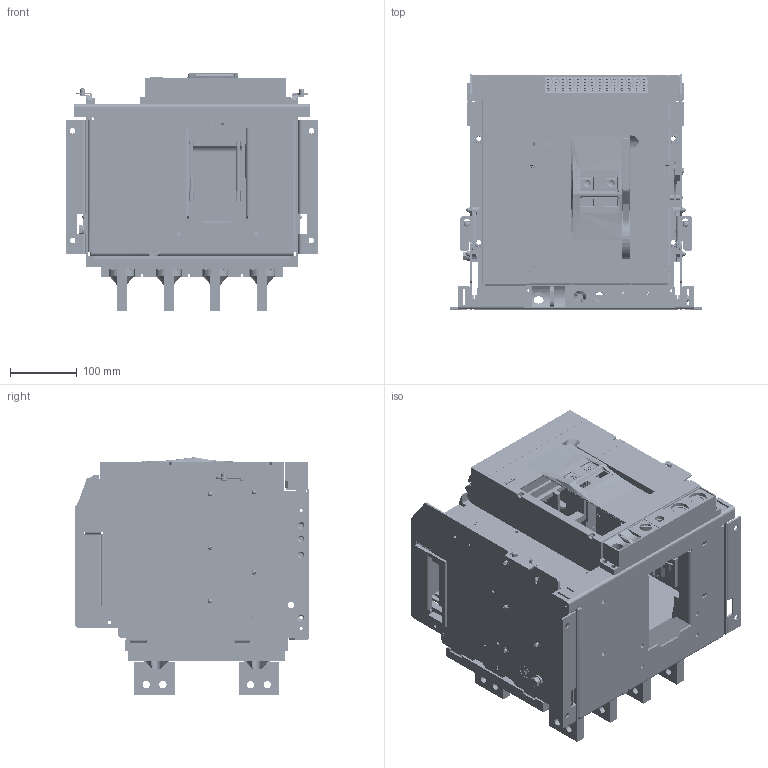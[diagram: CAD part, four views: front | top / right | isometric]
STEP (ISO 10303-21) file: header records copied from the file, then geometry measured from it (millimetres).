
FILE_DESCRIPTION((''),'2;1');
FILE_NAME('NA8G-1600-1250-DO-4P-V_ASM','2019-06-03T08:48:49',('lcc'),(''),'CREO PARAMETRIC BY PTC INC, 2018020','CREO PARAMETRIC BY PTC INC, 2018020','');
FILE_SCHEMA(('CONFIG_CONTROL_DESIGN','SHAPE_APPEARANCE_LAYERS_GROUPS'));
Products named in the file (51): 8-024-498; 8-300-164; 8-141-125; 8ZTD-860-349-2; 8-441-081; 5ZTD-024-170_ASM; 8-050-244; 8-960-058; 8-960-056; 8-960-057; 8-960-060; 8-960-059; 8-127-020; 8-125-057; 8-123-120; 8-261-001; 8-125-001; 8-210-176; 5-124-010_ASM; 8-233-301; GBT97_1-4; GBT93-4; GBT818-M4X10; GBT845-ST4_2X9_5C; GBT6170-M8; 5-050-095_ASM; 8-050-243; 8-261-002; 8-125-002; 5-124-011_ASM; GBT97_1-8; GBT93-8; GBT5783-M8X16; 5-050-096_ASM; 8-300-163; 8-015-020; 8ZTD-043-780; 8ZTD-043-781; 8-300-162-2; 8-005-238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
Assembly tree (104 placements, depth 4):
  NA8G-1600-1250-DO-4P-V_ASM
    5ZTD-024-170_ASM
      8-024-498
      8-300-164
      8-141-125
      8ZTD-860-349-2
      8-441-081
    5-050-095_ASM
      8-050-244
      8-960-058
      8-960-056
      8-960-057
      8-960-060
      8-960-059
      8-127-020
      8-125-057
      8-123-120
      5-124-010_ASM
        8-261-001
        8-125-001
        8-210-176
      8-233-301
      GBT97_1-4  x5
      GBT93-4  x5
      GBT818-M4X10  x5
      GBT845-ST4_2X9_5C
      GBT6170-M8  x2
    5-050-096_ASM
      8-050-243
      8-125-057
      8-123-120
      5-124-011_ASM
        8-261-002
        8-125-002
        8-210-176
      GBT6170-M8  x2
      GBT97_1-4  x5
      GBT93-4  x5
      GBT818-M4X10  x5
      GBT97_1-8  x2
      GBT93-8
      GBT5783-M8X16
    8-300-163
    8-015-020
    8ZTD-043-780
    8ZTD-043-781
    8-300-162-2
    8-005-238
    8-253-348
    8-253-349
    8-253-309
    5-235-147
    1600-DUANZI-CTS_ASM
      8ZTD-064-138
      8ZTD-024-689  x14
      8ZTD-860-511
    1600-DIJIA-4P
    8ZTD-580-187-1  x8
Bounding box: 378 x 351 x 355 mm (x, y, z)
Volume: 8436216.1 mm3; surface area: 2123365 mm2
Topology: 98 solids, 158 shells, 7720 faces, 21106 edges, 13877 vertices
Faces by surface type: plane 5733, cylinder 1728, cone 134, bspline 50, torus 42, sphere 32, extrusion 1
Entity records: 202480 total; most frequent: CARTESIAN_POINT 29857, ORIENTED_EDGE 27274, DIRECTION 26558, EDGE_CURVE 13648, PRESENTATION_STYLE_ASSIGNMENT 12801, STYLED_ITEM 12764, CURVE_STYLE 12101, VECTOR 10754
